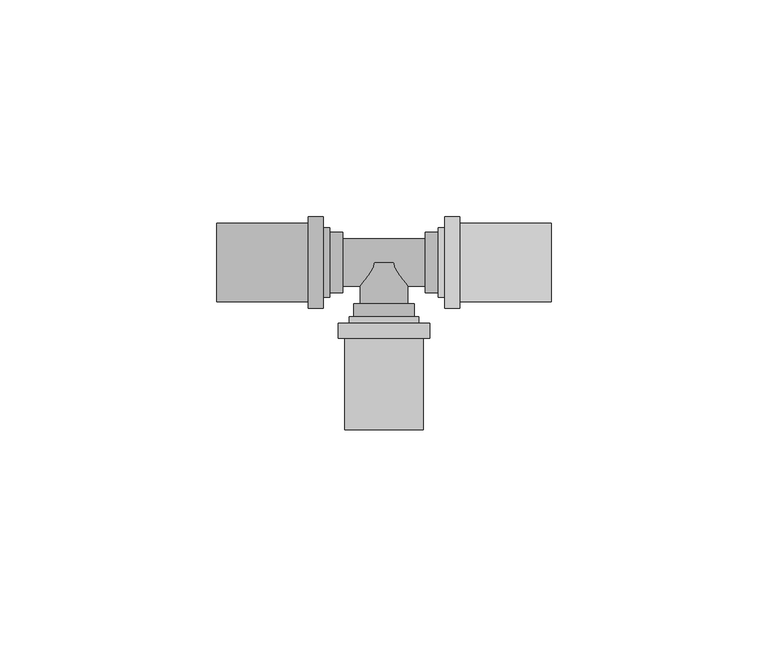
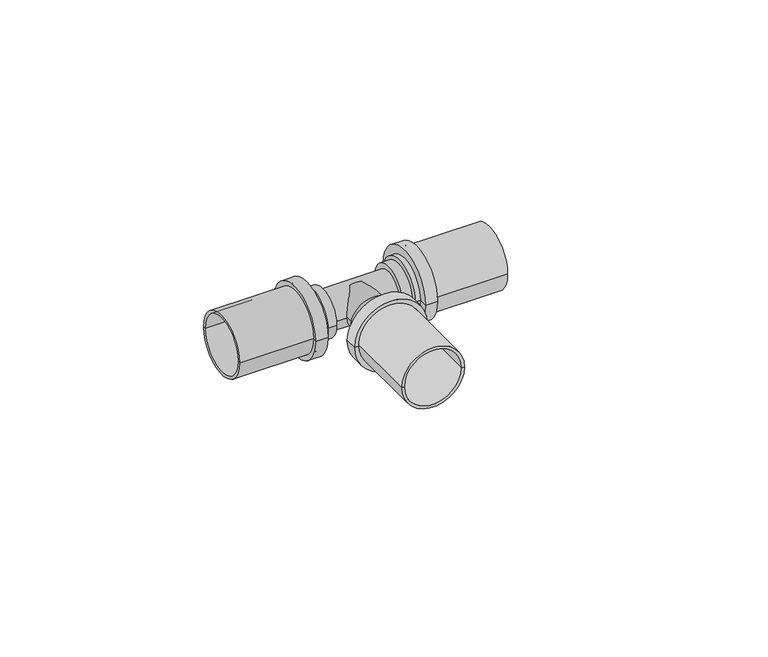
"""IFC4 building model written with IfcOpenShell, lengths in millimetres: pipe fitting geometry, Astra Gás - Tê - GT : Astra Gás - Tê - GT."""

from ifc_helpers import new_model, si_unit, frame, origin, place, context, project, spatial, polyline, circle_curve, source, transform, mapped, element, save
from ifc_brep_helpers import plane_surface, cylinder_surface, revolved_surface, advanced_brep


def pipe_fitting_e26611ef(model_context):
    return source(origin(), model_context, "Body", "AdvancedBrep", [
        advanced_brep(
        [(38.5, 9.05, 0.0), (38.5, -9.05, 0.0), (15.0, -9.05, 0.0), (15.0, 9.05, 0.0), (38.5, 8.25, 0.0), (38.5, -8.25, 0.0), (15.0, 8.25, 0.0), (15.0, -8.25, 0.0)],
        [
            (0, 1, circle_curve(frame((38.5, 0.0, 0.0), z_axis=(-1.0, 0.0, 0.0), x_axis=(0.0, -1.0, 0.0)), 9.05)),
            (1, 2),
            (2, 3, circle_curve(frame((15.0, 0.0, 0.0), z_axis=(1.0, 0.0, 0.0), x_axis=(0.0, -1.0, 0.0)), 9.05)),
            (3, 0),
            (1, 0, circle_curve(frame((38.5, 0.0, 0.0), z_axis=(-1.0, 0.0, 0.0), x_axis=(0.0, -1.0, 0.0)), 9.05)),
            (3, 2, circle_curve(frame((15.0, 0.0, 0.0), z_axis=(1.0, 0.0, 0.0), x_axis=(0.0, -1.0, 0.0)), 9.05)),
            (4, 5, circle_curve(frame((38.5, 0.0, 0.0), z_axis=(-1.0, 0.0, 0.0), x_axis=(0.0, -1.0, 0.0)), 8.25)),
            (5, 1),
            (0, 4),
            (5, 4, circle_curve(frame((38.5, 0.0, 0.0), z_axis=(-1.0, 0.0, 0.0), x_axis=(0.0, -1.0, 0.0)), 8.25)),
            (6, 7, circle_curve(frame((15.0, 0.0, 0.0), z_axis=(-1.0, 0.0, 0.0), x_axis=(0.0, -1.0, 0.0)), 8.25)),
            (7, 5),
            (4, 6),
            (7, 6, circle_curve(frame((15.0, 0.0, 0.0), z_axis=(-1.0, 0.0, 0.0), x_axis=(0.0, -1.0, 0.0)), 8.25)),
            (2, 7),
            (6, 3),
        ],
        [
            cylinder_surface(frame((38.5, 0.0, 0.0), z_axis=(1.0, 0.0, 0.0), x_axis=(0.0, -1.0, 0.0)), 9.05),
            plane_surface(frame((38.5, 0.0, 0.0), z_axis=(1.0, 0.0, 0.0), x_axis=(0.0, -1.0, 0.0))),
            revolved_surface(polyline([(38.5, -8.25, 0.0), (15.0, -8.25, 0.0)]), (38.5, 0.0, 0.0), (1.0, 0.0, 0.0)),
            plane_surface(frame((15.0, 0.0, 0.0), z_axis=(-1.0, 0.0, 0.0), x_axis=(0.0, -1.0, 0.0))),
        ],
        [
            (0, [[1, 2, 3, 4]]),
            (0, [[5, -4, 6, -2]]),
            (1, [[7, 8, -1, 9]]),
            (1, [[10, -9, -5, -8]]),
            (2, [[11, 12, -7, 13]]),
            (2, [[14, -13, -10, -12]]),
            (3, [[-3, 15, -11, 16]]),
            (3, [[-6, -16, -14, -15]]),
        ],
    ),
        advanced_brep(
        [(9.05, -38.5, 0.0), (-9.05, -38.5, 0.0), (-9.05, -15.0, 0.0), (9.05, -15.0, 0.0), (8.25, -38.5, 0.0), (-8.25, -38.5, 0.0), (8.25, -15.0, 0.0), (-8.25, -15.0, 0.0)],
        [
            (0, 1, circle_curve(frame((0.0, -38.5, 0.0), z_axis=(0.0, 1.0, 0.0), x_axis=(-1.0, 0.0, 0.0)), 9.05)),
            (1, 2),
            (2, 3, circle_curve(frame((0.0, -15.0, 0.0), z_axis=(0.0, -1.0, 0.0), x_axis=(-1.0, 0.0, 0.0)), 9.05)),
            (3, 0),
            (1, 0, circle_curve(frame((0.0, -38.5, 0.0), z_axis=(0.0, 1.0, 0.0), x_axis=(-1.0, 0.0, 0.0)), 9.05)),
            (3, 2, circle_curve(frame((0.0, -15.0, 0.0), z_axis=(0.0, -1.0, 0.0), x_axis=(-1.0, 0.0, 0.0)), 9.05)),
            (4, 5, circle_curve(frame((0.0, -38.5, 0.0), z_axis=(0.0, 1.0, 0.0), x_axis=(-1.0, 0.0, 0.0)), 8.25)),
            (5, 1),
            (0, 4),
            (5, 4, circle_curve(frame((0.0, -38.5, 0.0), z_axis=(0.0, 1.0, 0.0), x_axis=(-1.0, 0.0, 0.0)), 8.25)),
            (6, 7, circle_curve(frame((0.0, -15.0, 0.0), z_axis=(0.0, 1.0, 0.0), x_axis=(-1.0, 0.0, 0.0)), 8.25)),
            (7, 5),
            (4, 6),
            (7, 6, circle_curve(frame((0.0, -15.0, 0.0), z_axis=(0.0, 1.0, 0.0), x_axis=(-1.0, 0.0, 0.0)), 8.25)),
            (2, 7),
            (6, 3),
        ],
        [
            cylinder_surface(frame((0.0, -38.5, 0.0), z_axis=(0.0, -1.0, 0.0), x_axis=(-1.0, 0.0, 0.0)), 9.05),
            plane_surface(frame((0.0, -38.5, 0.0), z_axis=(0.0, -1.0, 0.0), x_axis=(-1.0, 0.0, 0.0))),
            revolved_surface(polyline([(-8.25, -38.5, 0.0), (-8.25, -15.0, 0.0)]), (0.0, -38.5, 0.0), (0.0, -1.0, 0.0)),
            plane_surface(frame((0.0, -15.0, 0.0), z_axis=(0.0, 1.0, 0.0), x_axis=(-1.0, 0.0, 0.0))),
        ],
        [
            (0, [[1, 2, 3, 4]]),
            (0, [[5, -4, 6, -2]]),
            (1, [[7, 8, -1, 9]]),
            (1, [[10, -9, -5, -8]]),
            (2, [[11, 12, -7, 13]]),
            (2, [[14, -13, -10, -12]]),
            (3, [[-3, 15, -11, 16]]),
            (3, [[-6, -16, -14, -15]]),
        ],
    ),
        advanced_brep(
        [(-38.5, -9.05, 0.0), (-38.5, 9.05, 0.0), (-15.0, 9.05, 0.0), (-15.0, -9.05, 0.0), (-38.5, -8.25, 0.0), (-38.5, 8.25, 0.0), (-15.0, -8.25, 0.0), (-15.0, 8.25, 0.0)],
        [
            (0, 1, circle_curve(frame((-38.5, 0.0, 0.0), z_axis=(1.0, 0.0, 0.0), x_axis=(0.0, 1.0, 0.0)), 9.05)),
            (1, 2),
            (2, 3, circle_curve(frame((-15.0, 0.0, 0.0), z_axis=(-1.0, 0.0, 0.0), x_axis=(0.0, 1.0, 0.0)), 9.05)),
            (3, 0),
            (1, 0, circle_curve(frame((-38.5, 0.0, 0.0), z_axis=(1.0, 0.0, 0.0), x_axis=(0.0, 1.0, 0.0)), 9.05)),
            (3, 2, circle_curve(frame((-15.0, 0.0, 0.0), z_axis=(-1.0, 0.0, 0.0), x_axis=(0.0, 1.0, 0.0)), 9.05)),
            (4, 5, circle_curve(frame((-38.5, 0.0, 0.0), z_axis=(1.0, 0.0, 0.0), x_axis=(0.0, 1.0, 0.0)), 8.25)),
            (5, 1),
            (0, 4),
            (5, 4, circle_curve(frame((-38.5, 0.0, 0.0), z_axis=(1.0, 0.0, 0.0), x_axis=(0.0, 1.0, 0.0)), 8.25)),
            (6, 7, circle_curve(frame((-15.0, 0.0, 0.0), z_axis=(1.0, 0.0, 0.0), x_axis=(0.0, 1.0, 0.0)), 8.25)),
            (7, 5),
            (4, 6),
            (7, 6, circle_curve(frame((-15.0, 0.0, 0.0), z_axis=(1.0, 0.0, 0.0), x_axis=(0.0, 1.0, 0.0)), 8.25)),
            (2, 7),
            (6, 3),
        ],
        [
            cylinder_surface(frame((-38.5, 0.0, 0.0), z_axis=(-1.0, 0.0, 0.0), x_axis=(0.0, 1.0, 0.0)), 9.05),
            plane_surface(frame((-38.5, 0.0, 0.0), z_axis=(-1.0, 0.0, 0.0), x_axis=(0.0, 1.0, 0.0))),
            revolved_surface(polyline([(-38.5, 8.25, 0.0), (-15.0, 8.25, 0.0)]), (-38.5, 0.0, 0.0), (-1.0, 0.0, 0.0)),
            plane_surface(frame((-15.0, 0.0, 0.0), z_axis=(1.0, 0.0, 0.0), x_axis=(0.0, 1.0, 0.0))),
        ],
        [
            (0, [[1, 2, 3, 4]]),
            (0, [[5, -4, 6, -2]]),
            (1, [[7, 8, -1, 9]]),
            (1, [[10, -9, -5, -8]]),
            (2, [[11, 12, -7, 13]]),
            (2, [[14, -13, -10, -12]]),
            (3, [[-3, 15, -11, 16]]),
            (3, [[-6, -16, -14, -15]]),
        ],
    ),
        advanced_brep(
        [(9.05, -15.0, 0.0), (-9.05, -15.0, 0.0), (-9.05, -17.5, 0.0), (9.05, -17.5, 0.0), (0.0, -15.0, 0.0), (8.0, -12.5, 0.0), (-8.0, -12.5, 0.0), (0.0, -12.5, 0.0), (8.0, -14.0, 0.0), (-8.0, -14.0, 0.0), (10.5, -14.0, 0.0), (-10.5, -14.0, 0.0), (10.5, -17.5, 0.0), (-10.5, -17.5, 0.0)],
        [
            (0, 1, circle_curve(frame((0.0, -15.0, 0.0), z_axis=(0.0, 1.0, 0.0), x_axis=(-1.0, 0.0, 0.0)), 9.05)),
            (1, 2),
            (2, 3, circle_curve(frame((0.0, -17.5, 0.0), z_axis=(0.0, -1.0, 0.0), x_axis=(-1.0, 0.0, 0.0)), 9.05)),
            (3, 0),
            (1, 0, circle_curve(frame((0.0, -15.0, 0.0), z_axis=(0.0, 1.0, 0.0), x_axis=(-1.0, 0.0, 0.0)), 9.05)),
            (3, 2, circle_curve(frame((0.0, -17.5, 0.0), z_axis=(0.0, -1.0, 0.0), x_axis=(-1.0, 0.0, 0.0)), 9.05)),
            (4, 1),
            (0, 4),
            (5, 6, circle_curve(frame((0.0, -12.5, 0.0), z_axis=(0.0, 1.0, 0.0), x_axis=(-1.0, 0.0, 0.0)), 8.0)),
            (6, 7),
            (7, 5),
            (6, 5, circle_curve(frame((0.0, -12.5, 0.0), z_axis=(0.0, 1.0, 0.0), x_axis=(-1.0, 0.0, 0.0)), 8.0)),
            (8, 9, circle_curve(frame((0.0, -14.0, 0.0), z_axis=(0.0, 1.0, 0.0), x_axis=(-1.0, 0.0, 0.0)), 8.0)),
            (9, 6),
            (5, 8),
            (9, 8, circle_curve(frame((0.0, -14.0, 0.0), z_axis=(0.0, 1.0, 0.0), x_axis=(-1.0, 0.0, 0.0)), 8.0)),
            (10, 11, circle_curve(frame((0.0, -14.0, 0.0), z_axis=(0.0, 1.0, 0.0), x_axis=(-1.0, 0.0, 0.0)), 10.5)),
            (11, 9),
            (8, 10),
            (11, 10, circle_curve(frame((0.0, -14.0, 0.0), z_axis=(0.0, 1.0, 0.0), x_axis=(-1.0, 0.0, 0.0)), 10.5)),
            (12, 13, circle_curve(frame((0.0, -17.5, 0.0), z_axis=(0.0, 1.0, 0.0), x_axis=(-1.0, 0.0, 0.0)), 10.5)),
            (13, 11),
            (10, 12),
            (13, 12, circle_curve(frame((0.0, -17.5, 0.0), z_axis=(0.0, 1.0, 0.0), x_axis=(-1.0, 0.0, 0.0)), 10.5)),
            (2, 13),
            (12, 3),
        ],
        [
            revolved_surface(polyline([(-9.05, -17.5, 0.0), (-9.05, -15.0, 0.0)]), (0.0, -17.5, 0.0), (0.0, -1.0, 0.0)),
            plane_surface(frame((0.0, -15.0, 0.0), z_axis=(0.0, -1.0, 0.0), x_axis=(-1.0, 0.0, 0.0))),
            plane_surface(frame((0.0, -12.5, 0.0), z_axis=(0.0, 1.0, 0.0), x_axis=(-1.0, 0.0, 0.0))),
            cylinder_surface(frame((0.0, -17.5, 0.0), z_axis=(0.0, -1.0, 0.0), x_axis=(-1.0, 0.0, 0.0)), 8.0),
            plane_surface(frame((0.0, -14.0, 0.0), z_axis=(0.0, 1.0, 0.0), x_axis=(-1.0, 0.0, 0.0))),
            cylinder_surface(frame((0.0, -17.5, 0.0), z_axis=(0.0, -1.0, 0.0), x_axis=(-1.0, 0.0, 0.0)), 10.5),
            plane_surface(frame((0.0, -17.5, 0.0), z_axis=(0.0, -1.0, 0.0), x_axis=(-1.0, 0.0, 0.0))),
        ],
        [
            (0, [[1, 2, 3, 4]]),
            (0, [[5, -4, 6, -2]]),
            (1, [[7, -1, 8]]),
            (1, [[-8, -5, -7]]),
            (2, [[9, 10, 11]]),
            (2, [[12, -11, -10]]),
            (3, [[13, 14, -9, 15]]),
            (3, [[16, -15, -12, -14]]),
            (4, [[17, 18, -13, 19]]),
            (4, [[20, -19, -16, -18]]),
            (5, [[21, 22, -17, 23]]),
            (5, [[24, -23, -20, -22]]),
            (6, [[-3, 25, -21, 26]]),
            (6, [[-6, -26, -24, -25]]),
        ],
    ),
        advanced_brep(
        [(15.0, 9.05, 0.0), (15.0, -9.05, 0.0), (17.5, -9.05, 0.0), (17.5, 9.05, 0.0), (15.0, 0.0, 0.0), (12.5, 8.0, 0.0), (12.5, -8.0, 0.0), (12.5, 0.0, 0.0), (14.0, 8.0, 0.0), (14.0, -8.0, 0.0), (14.0, 10.5, 0.0), (14.0, -10.5, 0.0), (17.5, 10.5, 0.0), (17.5, -10.5, 0.0)],
        [
            (0, 1, circle_curve(frame((15.0, 0.0, 0.0), z_axis=(-1.0, 0.0, 0.0), x_axis=(0.0, -1.0, 0.0)), 9.05)),
            (1, 2),
            (2, 3, circle_curve(frame((17.5, 0.0, 0.0), z_axis=(1.0, 0.0, 0.0), x_axis=(0.0, -1.0, 0.0)), 9.05)),
            (3, 0),
            (1, 0, circle_curve(frame((15.0, 0.0, 0.0), z_axis=(-1.0, 0.0, 0.0), x_axis=(0.0, -1.0, 0.0)), 9.05)),
            (3, 2, circle_curve(frame((17.5, 0.0, 0.0), z_axis=(1.0, 0.0, 0.0), x_axis=(0.0, -1.0, 0.0)), 9.05)),
            (4, 1),
            (0, 4),
            (5, 6, circle_curve(frame((12.5, 0.0, 0.0), z_axis=(-1.0, 0.0, 0.0), x_axis=(0.0, -1.0, 0.0)), 8.0)),
            (6, 7),
            (7, 5),
            (6, 5, circle_curve(frame((12.5, 0.0, 0.0), z_axis=(-1.0, 0.0, 0.0), x_axis=(0.0, -1.0, 0.0)), 8.0)),
            (8, 9, circle_curve(frame((14.0, 0.0, 0.0), z_axis=(-1.0, 0.0, 0.0), x_axis=(0.0, -1.0, 0.0)), 8.0)),
            (9, 6),
            (5, 8),
            (9, 8, circle_curve(frame((14.0, 0.0, 0.0), z_axis=(-1.0, 0.0, 0.0), x_axis=(0.0, -1.0, 0.0)), 8.0)),
            (10, 11, circle_curve(frame((14.0, 0.0, 0.0), z_axis=(-1.0, 0.0, 0.0), x_axis=(0.0, -1.0, 0.0)), 10.5)),
            (11, 9),
            (8, 10),
            (11, 10, circle_curve(frame((14.0, 0.0, 0.0), z_axis=(-1.0, 0.0, 0.0), x_axis=(0.0, -1.0, 0.0)), 10.5)),
            (12, 13, circle_curve(frame((17.5, 0.0, 0.0), z_axis=(-1.0, 0.0, 0.0), x_axis=(0.0, -1.0, 0.0)), 10.5)),
            (13, 11),
            (10, 12),
            (13, 12, circle_curve(frame((17.5, 0.0, 0.0), z_axis=(-1.0, 0.0, 0.0), x_axis=(0.0, -1.0, 0.0)), 10.5)),
            (2, 13),
            (12, 3),
        ],
        [
            revolved_surface(polyline([(17.5, -9.05, 0.0), (15.0, -9.05, 0.0)]), (17.5, 0.0, 0.0), (1.0, 0.0, 0.0)),
            plane_surface(frame((15.0, 0.0, 0.0), z_axis=(1.0, 0.0, 0.0), x_axis=(0.0, -1.0, 0.0))),
            plane_surface(frame((12.5, 0.0, 0.0), z_axis=(-1.0, 0.0, 0.0), x_axis=(0.0, -1.0, 0.0))),
            cylinder_surface(frame((17.5, 0.0, 0.0), z_axis=(1.0, 0.0, 0.0), x_axis=(0.0, -1.0, 0.0)), 8.0),
            plane_surface(frame((14.0, 0.0, 0.0), z_axis=(-1.0, 0.0, 0.0), x_axis=(0.0, -1.0, 0.0))),
            cylinder_surface(frame((17.5, 0.0, 0.0), z_axis=(1.0, 0.0, 0.0), x_axis=(0.0, -1.0, 0.0)), 10.5),
            plane_surface(frame((17.5, 0.0, 0.0), z_axis=(1.0, 0.0, 0.0), x_axis=(0.0, -1.0, 0.0))),
        ],
        [
            (0, [[1, 2, 3, 4]]),
            (0, [[5, -4, 6, -2]]),
            (1, [[7, -1, 8]]),
            (1, [[-8, -5, -7]]),
            (2, [[9, 10, 11]]),
            (2, [[12, -11, -10]]),
            (3, [[13, 14, -9, 15]]),
            (3, [[16, -15, -12, -14]]),
            (4, [[17, 18, -13, 19]]),
            (4, [[20, -19, -16, -18]]),
            (5, [[21, 22, -17, 23]]),
            (5, [[24, -23, -20, -22]]),
            (6, [[-3, 25, -21, 26]]),
            (6, [[-6, -26, -24, -25]]),
        ],
    ),
        advanced_brep(
        [(-15.0, -9.05, 0.0), (-15.0, 9.05, 0.0), (-17.5, 9.05, 0.0), (-17.5, -9.05, 0.0), (-15.0, 0.0, 0.0), (-12.5, -8.0, 0.0), (-12.5, 8.0, 0.0), (-12.5, 0.0, 0.0), (-14.0, -8.0, 0.0), (-14.0, 8.0, 0.0), (-14.0, -10.5, 0.0), (-14.0, 10.5, 0.0), (-17.5, -10.5, 0.0), (-17.5, 10.5, 0.0)],
        [
            (0, 1, circle_curve(frame((-15.0, 0.0, 0.0), z_axis=(1.0, 0.0, 0.0), x_axis=(0.0, 1.0, 0.0)), 9.05)),
            (1, 2),
            (2, 3, circle_curve(frame((-17.5, 0.0, 0.0), z_axis=(-1.0, 0.0, 0.0), x_axis=(0.0, 1.0, 0.0)), 9.05)),
            (3, 0),
            (1, 0, circle_curve(frame((-15.0, 0.0, 0.0), z_axis=(1.0, 0.0, 0.0), x_axis=(0.0, 1.0, 0.0)), 9.05)),
            (3, 2, circle_curve(frame((-17.5, 0.0, 0.0), z_axis=(-1.0, 0.0, 0.0), x_axis=(0.0, 1.0, 0.0)), 9.05)),
            (4, 1),
            (0, 4),
            (5, 6, circle_curve(frame((-12.5, 0.0, 0.0), z_axis=(1.0, 0.0, 0.0), x_axis=(0.0, 1.0, 0.0)), 8.0)),
            (6, 7),
            (7, 5),
            (6, 5, circle_curve(frame((-12.5, 0.0, 0.0), z_axis=(1.0, 0.0, 0.0), x_axis=(0.0, 1.0, 0.0)), 8.0)),
            (8, 9, circle_curve(frame((-14.0, 0.0, 0.0), z_axis=(1.0, 0.0, 0.0), x_axis=(0.0, 1.0, 0.0)), 8.0)),
            (9, 6),
            (5, 8),
            (9, 8, circle_curve(frame((-14.0, 0.0, 0.0), z_axis=(1.0, 0.0, 0.0), x_axis=(0.0, 1.0, 0.0)), 8.0)),
            (10, 11, circle_curve(frame((-14.0, 0.0, 0.0), z_axis=(1.0, 0.0, 0.0), x_axis=(0.0, 1.0, 0.0)), 10.5)),
            (11, 9),
            (8, 10),
            (11, 10, circle_curve(frame((-14.0, 0.0, 0.0), z_axis=(1.0, 0.0, 0.0), x_axis=(0.0, 1.0, 0.0)), 10.5)),
            (12, 13, circle_curve(frame((-17.5, 0.0, 0.0), z_axis=(1.0, 0.0, 0.0), x_axis=(0.0, 1.0, 0.0)), 10.5)),
            (13, 11),
            (10, 12),
            (13, 12, circle_curve(frame((-17.5, 0.0, 0.0), z_axis=(1.0, 0.0, 0.0), x_axis=(0.0, 1.0, 0.0)), 10.5)),
            (2, 13),
            (12, 3),
        ],
        [
            revolved_surface(polyline([(-17.5, 9.05, 0.0), (-15.0, 9.05, 0.0)]), (-17.5, 0.0, 0.0), (-1.0, 0.0, 0.0)),
            plane_surface(frame((-15.0, 0.0, 0.0), z_axis=(-1.0, 0.0, 0.0), x_axis=(0.0, 1.0, 0.0))),
            plane_surface(frame((-12.5, 0.0, 0.0), z_axis=(1.0, 0.0, 0.0), x_axis=(0.0, 1.0, 0.0))),
            cylinder_surface(frame((-17.5, 0.0, 0.0), z_axis=(-1.0, 0.0, 0.0), x_axis=(0.0, 1.0, 0.0)), 8.0),
            plane_surface(frame((-14.0, 0.0, 0.0), z_axis=(1.0, 0.0, 0.0), x_axis=(0.0, 1.0, 0.0))),
            cylinder_surface(frame((-17.5, 0.0, 0.0), z_axis=(-1.0, 0.0, 0.0), x_axis=(0.0, 1.0, 0.0)), 10.5),
            plane_surface(frame((-17.5, 0.0, 0.0), z_axis=(-1.0, 0.0, 0.0), x_axis=(0.0, 1.0, 0.0))),
        ],
        [
            (0, [[1, 2, 3, 4]]),
            (0, [[5, -4, 6, -2]]),
            (1, [[7, -1, 8]]),
            (1, [[-8, -5, -7]]),
            (2, [[9, 10, 11]]),
            (2, [[12, -11, -10]]),
            (3, [[13, 14, -9, 15]]),
            (3, [[16, -15, -12, -14]]),
            (4, [[17, 18, -13, 19]]),
            (4, [[20, -19, -16, -18]]),
            (5, [[21, 22, -17, 23]]),
            (5, [[24, -23, -20, -22]]),
            (6, [[-3, 25, -21, 26]]),
            (6, [[-6, -26, -24, -25]]),
        ],
    ),
        advanced_brep(
        [(-7.0, -9.5, 0.0), (7.0, -9.5, 0.0), (7.0, -12.5, 0.0), (-7.0, -12.5, 0.0), (-5.5, -9.5, 0.0), (5.5, -9.5, 0.0), (-5.5, 0.0, 0.0), (5.5, 0.0, 0.0), (0.0, 0.0, 0.0), (0.0, -12.5, 0.0)],
        [
            (0, 1, circle_curve(frame((0.0, -9.5, 0.0), z_axis=(0.0, -1.0, 0.0), x_axis=(1.0, 0.0, 0.0)), 7.0)),
            (1, 2),
            (2, 3, circle_curve(frame((0.0, -12.5, 0.0), z_axis=(0.0, 1.0, 0.0), x_axis=(1.0, 0.0, 0.0)), 7.0)),
            (3, 0),
            (1, 0, circle_curve(frame((0.0, -9.5, 0.0), z_axis=(0.0, -1.0, 0.0), x_axis=(1.0, 0.0, 0.0)), 7.0)),
            (3, 2, circle_curve(frame((0.0, -12.5, 0.0), z_axis=(0.0, 1.0, 0.0), x_axis=(1.0, 0.0, 0.0)), 7.0)),
            (4, 5, circle_curve(frame((0.0, -9.5, 0.0), z_axis=(0.0, -1.0, 0.0), x_axis=(1.0, 0.0, 0.0)), 5.5)),
            (5, 1),
            (0, 4),
            (5, 4, circle_curve(frame((0.0, -9.5, 0.0), z_axis=(0.0, -1.0, 0.0), x_axis=(1.0, 0.0, 0.0)), 5.5)),
            (6, 7, circle_curve(frame((0.0, 0.0, 0.0), z_axis=(0.0, -1.0, 0.0), x_axis=(1.0, 0.0, 0.0)), 5.5)),
            (7, 5),
            (4, 6),
            (7, 6, circle_curve(frame((0.0, 0.0, 0.0), z_axis=(0.0, -1.0, 0.0), x_axis=(1.0, 0.0, 0.0)), 5.5)),
            (8, 7),
            (6, 8),
            (2, 9),
            (9, 3),
        ],
        [
            cylinder_surface(frame((0.0, -12.5, 0.0), z_axis=(0.0, 1.0, 0.0), x_axis=(1.0, 0.0, 0.0)), 7.0),
            plane_surface(frame((0.0, -9.5, 0.0), z_axis=(0.0, 1.0, 0.0), x_axis=(1.0, 0.0, 0.0))),
            cylinder_surface(frame((0.0, -12.5, 0.0), z_axis=(0.0, 1.0, 0.0), x_axis=(1.0, 0.0, 0.0)), 5.5),
            plane_surface(frame((0.0, 0.0, 0.0), z_axis=(0.0, 1.0, 0.0), x_axis=(1.0, 0.0, 0.0))),
            plane_surface(frame((0.0, -12.5, 0.0), z_axis=(0.0, -1.0, 0.0), x_axis=(1.0, 0.0, 0.0))),
        ],
        [
            (0, [[1, 2, 3, 4]]),
            (0, [[5, -4, 6, -2]]),
            (1, [[7, 8, -1, 9]]),
            (1, [[10, -9, -5, -8]]),
            (2, [[11, 12, -7, 13]]),
            (2, [[14, -13, -10, -12]]),
            (3, [[15, -11, 16]]),
            (3, [[-16, -14, -15]]),
            (4, [[-3, 17, 18]]),
            (4, [[-6, -18, -17]]),
        ],
    ),
        advanced_brep(
        [(12.5, -7.0, 0.0), (12.5, 7.0, 0.0), (12.5, 0.0, 0.0), (9.5, -7.0, 0.0), (9.5, 7.0, 0.0), (9.5, -5.5, 0.0), (9.5, 5.5, 0.0), (-9.5, -5.5, 0.0), (-9.5, 5.5, 0.0), (-9.5, -7.0, 0.0), (-9.5, 7.0, 0.0), (-12.5, -7.0, 0.0), (-12.5, 7.0, 0.0), (-12.5, 0.0, 0.0)],
        [
            (0, 1, circle_curve(frame((12.5, 0.0, 0.0), z_axis=(1.0, 0.0, 0.0), x_axis=(0.0, 1.0, 0.0)), 7.0)),
            (1, 2),
            (2, 0),
            (1, 0, circle_curve(frame((12.5, 0.0, 0.0), z_axis=(1.0, 0.0, 0.0), x_axis=(0.0, 1.0, 0.0)), 7.0)),
            (3, 4, circle_curve(frame((9.5, 0.0, 0.0), z_axis=(1.0, 0.0, 0.0), x_axis=(0.0, 1.0, 0.0)), 7.0)),
            (4, 1),
            (0, 3),
            (4, 3, circle_curve(frame((9.5, 0.0, 0.0), z_axis=(1.0, 0.0, 0.0), x_axis=(0.0, 1.0, 0.0)), 7.0)),
            (5, 6, circle_curve(frame((9.5, 0.0, 0.0), z_axis=(1.0, 0.0, 0.0), x_axis=(0.0, 1.0, 0.0)), 5.5)),
            (6, 4),
            (3, 5),
            (6, 5, circle_curve(frame((9.5, 0.0, 0.0), z_axis=(1.0, 0.0, 0.0), x_axis=(0.0, 1.0, 0.0)), 5.5)),
            (7, 8, circle_curve(frame((-9.5, 0.0, 0.0), z_axis=(1.0, 0.0, 0.0), x_axis=(0.0, 1.0, 0.0)), 5.5)),
            (8, 6),
            (5, 7),
            (8, 7, circle_curve(frame((-9.5, 0.0, 0.0), z_axis=(1.0, 0.0, 0.0), x_axis=(0.0, 1.0, 0.0)), 5.5)),
            (9, 10, circle_curve(frame((-9.5, 0.0, 0.0), z_axis=(1.0, 0.0, 0.0), x_axis=(0.0, 1.0, 0.0)), 7.0)),
            (10, 8),
            (7, 9),
            (10, 9, circle_curve(frame((-9.5, 0.0, 0.0), z_axis=(1.0, 0.0, 0.0), x_axis=(0.0, 1.0, 0.0)), 7.0)),
            (11, 12, circle_curve(frame((-12.5, 0.0, 0.0), z_axis=(1.0, 0.0, 0.0), x_axis=(0.0, 1.0, 0.0)), 7.0)),
            (12, 10),
            (9, 11),
            (12, 11, circle_curve(frame((-12.5, 0.0, 0.0), z_axis=(1.0, 0.0, 0.0), x_axis=(0.0, 1.0, 0.0)), 7.0)),
            (13, 12),
            (11, 13),
        ],
        [
            plane_surface(frame((12.5, 0.0, 0.0), z_axis=(1.0, 0.0, 0.0), x_axis=(0.0, 1.0, 0.0))),
            cylinder_surface(frame((-12.5, 0.0, 0.0), z_axis=(-1.0, 0.0, 0.0), x_axis=(0.0, 1.0, 0.0)), 7.0),
            plane_surface(frame((9.5, 0.0, 0.0), z_axis=(-1.0, 0.0, 0.0), x_axis=(0.0, 1.0, 0.0))),
            cylinder_surface(frame((-12.5, 0.0, 0.0), z_axis=(-1.0, 0.0, 0.0), x_axis=(0.0, 1.0, 0.0)), 5.5),
            plane_surface(frame((-9.5, 0.0, 0.0), z_axis=(1.0, 0.0, 0.0), x_axis=(0.0, 1.0, 0.0))),
            plane_surface(frame((-12.5, 0.0, 0.0), z_axis=(-1.0, 0.0, 0.0), x_axis=(0.0, 1.0, 0.0))),
        ],
        [
            (0, [[1, 2, 3]]),
            (0, [[4, -3, -2]]),
            (1, [[5, 6, -1, 7]]),
            (1, [[8, -7, -4, -6]]),
            (2, [[9, 10, -5, 11]]),
            (2, [[12, -11, -8, -10]]),
            (3, [[13, 14, -9, 15]]),
            (3, [[16, -15, -12, -14]]),
            (4, [[17, 18, -13, 19]]),
            (4, [[20, -19, -16, -18]]),
            (1, [[21, 22, -17, 23]]),
            (1, [[24, -23, -20, -22]]),
            (5, [[25, -21, 26]]),
            (5, [[-26, -24, -25]]),
        ],
    ),
    ])


if __name__ == "__main__":
    model = new_model("IFC4")
    model_context = context("Model", 3, world=origin())
    ifc_project = project(units=[si_unit("LENGTHUNIT", "METRE", prefix="MILLI")], contexts=[model_context])
    site = spatial("IfcSite", under=ifc_project)
    building = spatial("IfcBuilding", under=site)
    placement = place(None, origin())
    pipe_fitting_shape = pipe_fitting_e26611ef(model_context)
    element("IfcPipeFitting", 1, ObjectType="Astra Gás - Tê - GT : Astra Gás - Tê - GT", at=placement, inside=building, context=model_context, shape_type="MappedRepresentation", body=[
        mapped(pipe_fitting_shape, transform((0.0, 0.0, 0.0), x_axis=(1.0, 0.0, 0.0), y_axis=(0.0, 1.0, 0.0), z_axis=(0.0, 0.0, 1.0))),
    ])
    save(model, "model.ifc")
